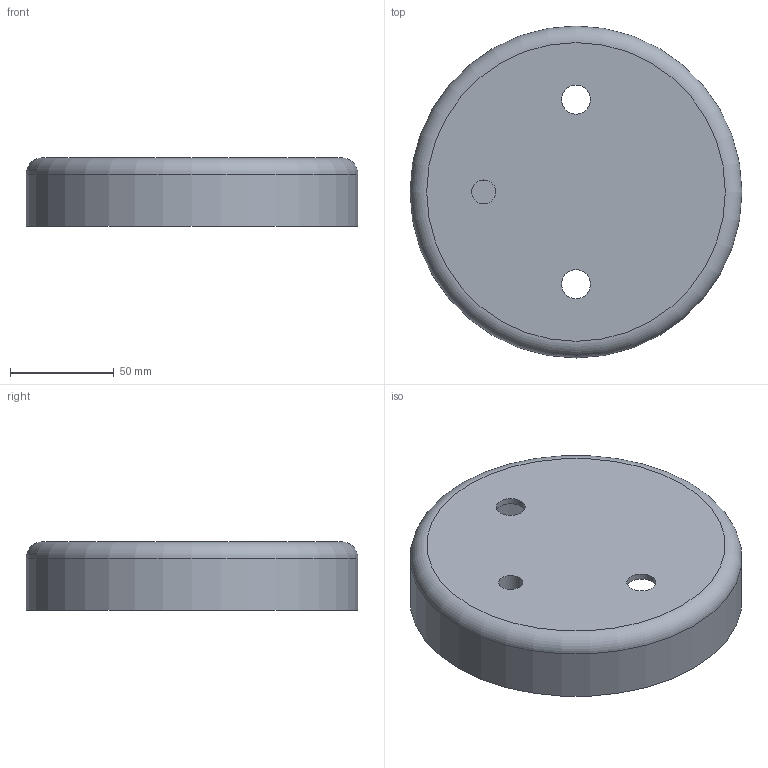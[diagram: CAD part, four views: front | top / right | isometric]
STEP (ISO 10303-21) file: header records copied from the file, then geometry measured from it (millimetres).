
FILE_DESCRIPTION(('Open CASCADE Model'),'2;1');
FILE_NAME('Open CASCADE Shape Model','2026-10-31T13:13:32',('Author'),( 'Open CASCADE'),'Open CASCADE STEP processor 7.9','Open CASCADE 7.9' ,'Unknown');
FILE_SCHEMA(('AUTOMOTIVE_DESIGN { 1 0 10303 214 1 1 1 1 }'));
Length unit declared in the file: millimetre
Products named in the file (1): Open CASCADE STEP translator 7.9 2
Bounding box: 160 x 160 x 33 mm (x, y, z)
Volume: 98298.9 mm3; surface area: 70155.1 mm2
Topology: 1 solids, 1 shells, 12 faces, 20 edges, 13 vertices
Faces by surface type: cylinder 6, plane 5, torus 1
Full cylindrical faces by diameter (mm): 11.5 x1, 14 x2, 17.5 x1, 154 x1, 160 x1
Entity records: 566 total; most frequent: DIRECTION 98, CARTESIAN_POINT 88, ORIENTED_EDGE 40, PCURVE 40, DEFINITIONAL_REPRESENTATION 40, LINE 32, VECTOR 32, AXIS2_PLACEMENT_3D 27
